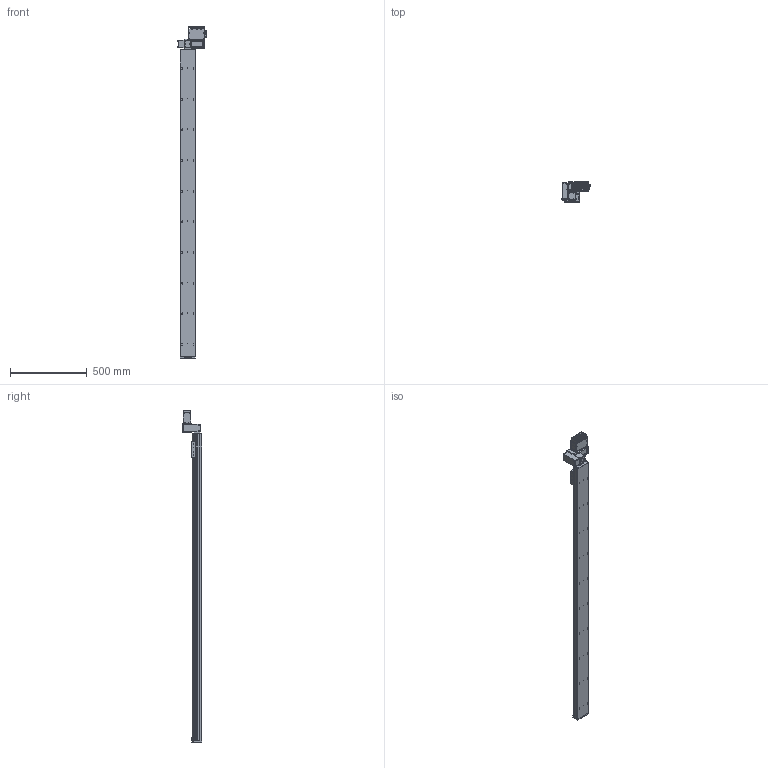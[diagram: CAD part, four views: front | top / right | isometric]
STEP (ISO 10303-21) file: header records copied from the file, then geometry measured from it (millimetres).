
FILE_DESCRIPTION (( 'STEP AP203' ), '1' );
FILE_NAME ('S10 TBN LT S2000.STEP', '2012-06-19T13:05:19', ( 'Conseil Régional Haute-Normandie' ), ( 'Conseil Régional Haute-Normandie' ), 'SwSTEP 2.0', 'SolidWorks 2010', '' );
FILE_SCHEMA (( 'CONFIG_CONTROL_DESIGN' ));
Length unit declared in the file: millimetre
Products named in the file (29): T_X2_00F4_X0_le contre le moteur_5; S10 TBN LT S2000; palette tbn; Assem1_7; plaque de bout s10_Default; vis M5 L5_Default; Couvercle_3; Connecteur rond D10 3cts_5; T_X2_00F4_X0_le fond_3; T_X2_00F4_X0_le Arri_X2_00E8_X0_re_5; T_X2_00F4_X0_le lat_X2_00E9_X0_rale_5; cache t皻e axe_Default; cache t皻e_Default; Cvis M5 L30_Default; embout; Plaque racord_Default; renvoi LH_Default; vis M5 L12_Default; Vis M5 L16-2_Default_1; BU41 Carte Alimentation P05_3; Colonnette_3; BU45 Carte d''axe A11_5; Moteur 60BLDC90A_3; Connecteur rond D12 4cts_5; Sub D 9cts 90_X2_00B_X0__3; Radiateur profil_X2_00E9_X0_ 100x25_3; Colonnette ronde_3; Vis TF 3 torkx_1_1; axe 2000
Assembly tree (62 placements, depth 3):
  S10 TBN LT S2000
    palette tbn
    renvoi LH_Default
    cache t皻e_Default  x2
    Cvis M5 L30_Default  x2
    vis M5 L12_Default  x4
    Vis M5 L16-2_Default_1  x4
    vis M5 L5_Default  x4
    embout
    plaque de bout s10_Default
    Plaque racord_Default
    cache t皻e axe_Default
    axe 2000
    Assem1_7
      Vis TF 3 torkx_1_1  x21
      Connecteur rond D10 3cts_5  x2
      Colonnette_3  x2
      Radiateur profil_X2_00E9_X0_ 100x25_3
      T_X2_00F4_X0_le Arri_X2_00E8_X0_re_5
      T_X2_00F4_X0_le lat_X2_00E9_X0_rale_5  x2
      BU45 Carte d''axe A11_5
      Moteur 60BLDC90A_3
      BU41 Carte Alimentation P05_3
      Couvercle_3
      T_X2_00F4_X0_le contre le moteur_5
      T_X2_00F4_X0_le fond_3
      Connecteur rond D12 4cts_5
      Sub D 9cts 90_X2_00B_X0__3
      Colonnette ronde_3
Bounding box: 189.8 x 127 x 2166.49 mm (x, y, z)
Volume: 11218474 mm3; surface area: 1257980.5 mm2
Topology: 61 solids, 61 shells, 2353 faces, 5826 edges, 3755 vertices
Faces by surface type: plane 1110, cylinder 1018, cone 182, bspline 40, torus 3
Entity records: 49243 total; most frequent: CARTESIAN_POINT 8864, DIRECTION 7989, ORIENTED_EDGE 7232, EDGE_CURVE 3616, AXIS2_PLACEMENT_3D 2979, VERTEX_POINT 2359, VECTOR 2031, LINE 2031
